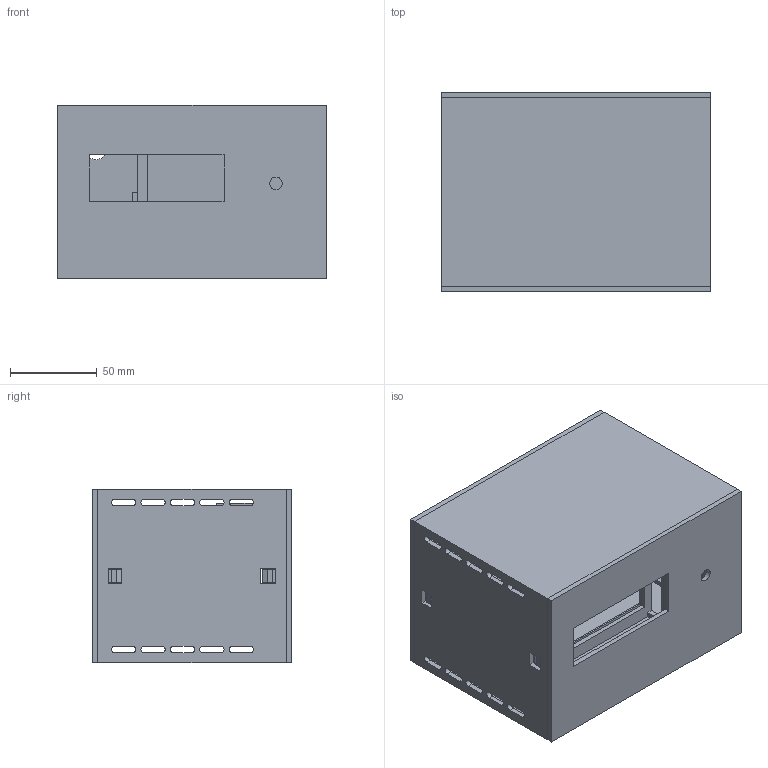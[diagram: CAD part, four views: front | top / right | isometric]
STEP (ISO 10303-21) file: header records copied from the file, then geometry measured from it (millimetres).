
FILE_DESCRIPTION(('Open CASCADE Model'),'2;1');
FILE_NAME('Open CASCADE Shape Model','2026-11-05T23:27:49',('Author'),( 'Open CASCADE'),'Open CASCADE STEP processor 7.8','Open CASCADE 7.8' ,'Unknown');
FILE_SCHEMA(('AUTOMOTIVE_DESIGN { 1 0 10303 214 1 1 1 1 }'));
Length unit declared in the file: millimetre
Products named in the file (5): Boitier_4_pieces_a_imprimer; 01_Coque_ouverte; 02_Facade_supports_LCD_A; 03_Berceau_B; 04_Panneau_arriere
Assembly tree (4 placements, depth 2):
  Boitier_4_pieces_a_imprimer
    01_Coque_ouverte
    02_Facade_supports_LCD_A
    03_Berceau_B
    04_Panneau_arriere
Bounding box: 155 x 115 x 100 mm (x, y, z)
Volume: 284393.1 mm3; surface area: 218135.8 mm2
Topology: 4 solids, 4 shells, 448 faces, 1299 edges, 864 vertices
Faces by surface type: plane 403, cylinder 45
Full cylindrical faces by diameter (mm): 7.2 x1, 12.4 x1, 12.5 x2, 16 x1
Entity records: 30803 total; most frequent: CARTESIAN_POINT 6122, DIRECTION 3985, LINE 2809, VECTOR 2809, ORIENTED_EDGE 2598, PCURVE 2598, DEFINITIONAL_REPRESENTATION 2598, EDGE_CURVE 1299
